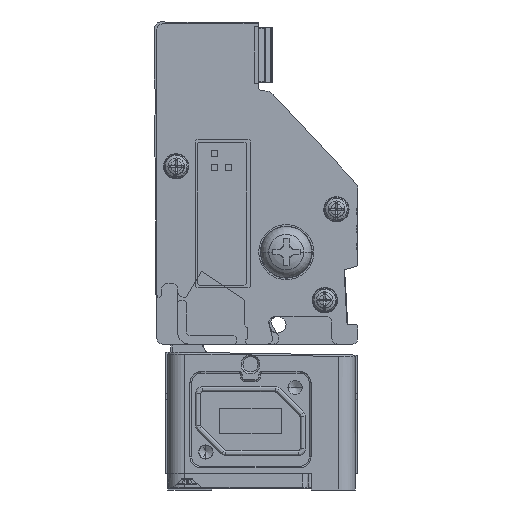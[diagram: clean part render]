
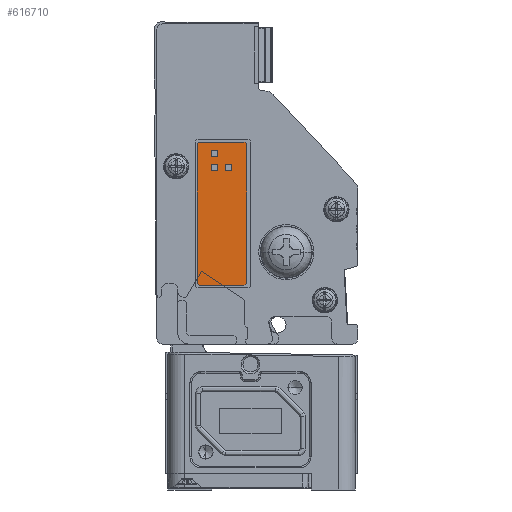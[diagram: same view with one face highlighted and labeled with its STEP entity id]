
A CAD part, front view. The second image highlights one B-rep face of the part: STEP entity #616710.
In plain terms, the highlighted planar face has unit normal (0, -1, 0).
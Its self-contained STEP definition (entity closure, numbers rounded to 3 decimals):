
#614940=CARTESIAN_POINT('',(9.8,-1339.8,
50.2));
#614950=DIRECTION('',(0.,-1.,0.));
#614960=DIRECTION('',(1.,0.,0.));
#614970=AXIS2_PLACEMENT_3D('',#614940,#614950,#614960);
#614980=PLANE('',#614970);
#614990=CARTESIAN_POINT('',(5.8,-1339.8,
62.7));
#615000=DIRECTION('',(0.,-1.,0.));
#615010=DIRECTION('',(0.,0.,1.));
#615020=AXIS2_PLACEMENT_3D('',#614990,#615000,#615010);
#615030=CIRCLE('',#615020,0.5);
#615040=CARTESIAN_POINT('',(5.8,-1339.8,
63.2));
#615050=VERTEX_POINT('',#615040);
#615060=CARTESIAN_POINT('',(5.3,-1339.8,
62.7));
#615070=VERTEX_POINT('',#615060);
#615080=EDGE_CURVE('',#615050,#615070,#615030,.T.);
#615090=ORIENTED_EDGE('',*,*,#615080,.T.);
#615100=CARTESIAN_POINT('',(5.8,-1339.8,
63.2));
#615110=DIRECTION('',(1.,0.,0.));
#615120=VECTOR('',#615110,1.);
#615130=LINE('',#615100,#615120);
#615140=CARTESIAN_POINT('',(13.8,-1339.8,
63.2));
#615150=VERTEX_POINT('',#615140);
#615160=EDGE_CURVE('',#615050,#615150,#615130,.T.);
#615170=ORIENTED_EDGE('',*,*,#615160,.F.);
#615180=CARTESIAN_POINT('',(13.8,-1339.8,
62.7));
#615190=DIRECTION('',(0.,-1.,0.));
#615200=DIRECTION('',(0.,0.,1.));
#615210=AXIS2_PLACEMENT_3D('',#615180,#615190,#615200);
#615220=CIRCLE('',#615210,0.5);
#615230=CARTESIAN_POINT('',(14.3,-1339.8,
62.7));
#615240=VERTEX_POINT('',#615230);
#615250=EDGE_CURVE('',#615240,#615150,#615220,.T.);
#615260=ORIENTED_EDGE('',*,*,#615250,.T.);
#615270=CARTESIAN_POINT('',(14.3,-1339.8,
62.7));
#615280=DIRECTION('',(0.,0.,-1.));
#615290=VECTOR('',#615280,1.);
#615300=LINE('',#615270,#615290);
#615310=CARTESIAN_POINT('',(14.3,-1339.8,
37.7));
#615320=VERTEX_POINT('',#615310);
#615330=EDGE_CURVE('',#615240,#615320,#615300,.T.);
#615340=ORIENTED_EDGE('',*,*,#615330,.F.);
#615350=CARTESIAN_POINT('',(13.8,-1339.8,
37.7));
#615360=DIRECTION('',(0.,-1.,0.));
#615370=DIRECTION('',(0.,0.,1.));
#615380=AXIS2_PLACEMENT_3D('',#615350,#615360,#615370);
#615390=CIRCLE('',#615380,0.5);
#615400=CARTESIAN_POINT('',(13.8,-1339.8,
37.2));
#615410=VERTEX_POINT('',#615400);
#615420=EDGE_CURVE('',#615410,#615320,#615390,.T.);
#615430=ORIENTED_EDGE('',*,*,#615420,.T.);
#615440=CARTESIAN_POINT('',(13.8,-1339.8,
37.2));
#615450=DIRECTION('',(-1.,0.,0.));
#615460=VECTOR('',#615450,1.);
#615470=LINE('',#615440,#615460);
#615480=CARTESIAN_POINT('',(5.8,-1339.8,
37.2));
#615490=VERTEX_POINT('',#615480);
#615500=EDGE_CURVE('',#615410,#615490,#615470,.T.);
#615510=ORIENTED_EDGE('',*,*,#615500,.F.);
#615520=CARTESIAN_POINT('',(5.8,-1339.8,
37.7));
#615530=DIRECTION('',(0.,-1.,0.));
#615540=DIRECTION('',(0.,0.,1.));
#615550=AXIS2_PLACEMENT_3D('',#615520,#615530,#615540);
#615560=CIRCLE('',#615550,0.5);
#615570=CARTESIAN_POINT('',(5.3,-1339.8,
37.7));
#615580=VERTEX_POINT('',#615570);
#615590=EDGE_CURVE('',#615580,#615490,#615560,.T.);
#615600=ORIENTED_EDGE('',*,*,#615590,.T.);
#615610=CARTESIAN_POINT('',(5.3,-1339.8,
37.7));
#615620=DIRECTION('',(0.,0.,1.));
#615630=VECTOR('',#615620,1.);
#615640=LINE('',#615610,#615630);
#615650=EDGE_CURVE('',#615580,#615070,#615640,.T.);
#615660=ORIENTED_EDGE('',*,*,#615650,.F.);
#615670=EDGE_LOOP('',(#615660,#615600,#615510,#615430,#615340,#615260,
#615170,#615090));
#615680=FACE_OUTER_BOUND('',#615670,.T.);
#615690=CARTESIAN_POINT('',(9.8,-1339.8,
58.089));
#615700=DIRECTION('',(-1.,0.,0.));
#615710=VECTOR('',#615700,1.);
#615720=LINE('',#615690,#615710);
#615730=CARTESIAN_POINT('',(11.605,-1339.8,
58.089));
#615740=VERTEX_POINT('',#615730);
#615750=CARTESIAN_POINT('',(10.506,-1339.8,
58.089));
#615760=VERTEX_POINT('',#615750);
#615770=EDGE_CURVE('',#615740,#615760,#615720,.T.);
#615780=ORIENTED_EDGE('',*,*,#615770,.T.);
#615790=CARTESIAN_POINT('',(11.605,-1339.8,
50.2));
#615800=DIRECTION('',(0.,0.,-1.));
#615810=VECTOR('',#615800,1.);
#615820=LINE('',#615790,#615810);
#615830=CARTESIAN_POINT('',(11.605,-1339.8,
59.188));
#615840=VERTEX_POINT('',#615830);
#615850=EDGE_CURVE('',#615840,#615740,#615820,.T.);
#615860=ORIENTED_EDGE('',*,*,#615850,.T.);
#615870=CARTESIAN_POINT('',(9.8,-1339.8,
59.188));
#615880=DIRECTION('',(1.,0.,0.));
#615890=VECTOR('',#615880,1.);
#615900=LINE('',#615870,#615890);
#615910=CARTESIAN_POINT('',(10.506,-1339.8,
59.188));
#615920=VERTEX_POINT('',#615910);
#615930=EDGE_CURVE('',#615920,#615840,#615900,.T.);
#615940=ORIENTED_EDGE('',*,*,#615930,.T.);
#615950=CARTESIAN_POINT('',(10.506,-1339.8,
50.2));
#615960=DIRECTION('',(0.,0.,1.));
#615970=VECTOR('',#615960,1.);
#615980=LINE('',#615950,#615970);
#615990=EDGE_CURVE('',#615760,#615920,#615980,.T.);
#616000=ORIENTED_EDGE('',*,*,#615990,.T.);
#616010=EDGE_LOOP('',(#616000,#615940,#615860,#615780));
#616020=FACE_BOUND('',#616010,.T.);
#616030=CARTESIAN_POINT('',(9.094,-1339.8,
50.2));
#616040=DIRECTION('',(0.,0.,-1.));
#616050=VECTOR('',#616040,1.);
#616060=LINE('',#616030,#616050);
#616070=CARTESIAN_POINT('',(9.094,-1339.8,
59.188));
#616080=VERTEX_POINT('',#616070);
#616090=CARTESIAN_POINT('',(9.094,-1339.8,
58.089));
#616100=VERTEX_POINT('',#616090);
#616110=EDGE_CURVE('',#616080,#616100,#616060,.T.);
#616120=ORIENTED_EDGE('',*,*,#616110,.T.);
#616130=CARTESIAN_POINT('',(9.8,-1339.8,
59.188));
#616140=DIRECTION('',(1.,0.,0.));
#616150=VECTOR('',#616140,1.);
#616160=LINE('',#616130,#616150);
#616170=CARTESIAN_POINT('',(7.995,-1339.8,
59.188));
#616180=VERTEX_POINT('',#616170);
#616190=EDGE_CURVE('',#616180,#616080,#616160,.T.);
#616200=ORIENTED_EDGE('',*,*,#616190,.T.);
#616210=CARTESIAN_POINT('',(7.995,-1339.8,
50.2));
#616220=DIRECTION('',(0.,0.,1.));
#616230=VECTOR('',#616220,1.);
#616240=LINE('',#616210,#616230);
#616250=CARTESIAN_POINT('',(7.995,-1339.8,
58.089));
#616260=VERTEX_POINT('',#616250);
#616270=EDGE_CURVE('',#616260,#616180,#616240,.T.);
#616280=ORIENTED_EDGE('',*,*,#616270,.T.);
#616290=CARTESIAN_POINT('',(9.8,-1339.8,
58.089));
#616300=DIRECTION('',(-1.,0.,0.));
#616310=VECTOR('',#616300,1.);
#616320=LINE('',#616290,#616310);
#616330=EDGE_CURVE('',#616100,#616260,#616320,.T.);
#616340=ORIENTED_EDGE('',*,*,#616330,.T.);
#616350=EDGE_LOOP('',(#616340,#616280,#616200,#616120));
#616360=FACE_BOUND('',#616350,.T.);
#616370=CARTESIAN_POINT('',(9.8,-1339.8,
61.7));
#616380=DIRECTION('',(1.,0.,0.));
#616390=VECTOR('',#616380,1.);
#616400=LINE('',#616370,#616390);
#616410=CARTESIAN_POINT('',(7.995,-1339.8,
61.7));
#616420=VERTEX_POINT('',#616410);
#616430=CARTESIAN_POINT('',(9.094,-1339.8,
61.7));
#616440=VERTEX_POINT('',#616430);
#616450=EDGE_CURVE('',#616420,#616440,#616400,.T.);
#616460=ORIENTED_EDGE('',*,*,#616450,.T.);
#616470=CARTESIAN_POINT('',(7.995,-1339.8,
50.2));
#616480=DIRECTION('',(0.,0.,1.));
#616490=VECTOR('',#616480,1.);
#616500=LINE('',#616470,#616490);
#616510=CARTESIAN_POINT('',(7.995,-1339.8,
60.601));
#616520=VERTEX_POINT('',#616510);
#616530=EDGE_CURVE('',#616520,#616420,#616500,.T.);
#616540=ORIENTED_EDGE('',*,*,#616530,.T.);
#616550=CARTESIAN_POINT('',(9.8,-1339.8,
60.601));
#616560=DIRECTION('',(-1.,0.,0.));
#616570=VECTOR('',#616560,1.);
#616580=LINE('',#616550,#616570);
#616590=CARTESIAN_POINT('',(9.094,-1339.8,
60.601));
#616600=VERTEX_POINT('',#616590);
#616610=EDGE_CURVE('',#616600,#616520,#616580,.T.);
#616620=ORIENTED_EDGE('',*,*,#616610,.T.);
#616630=CARTESIAN_POINT('',(9.094,-1339.8,
50.2));
#616640=DIRECTION('',(0.,0.,-1.));
#616650=VECTOR('',#616640,1.);
#616660=LINE('',#616630,#616650);
#616670=EDGE_CURVE('',#616440,#616600,#616660,.T.);
#616680=ORIENTED_EDGE('',*,*,#616670,.T.);
#616690=EDGE_LOOP('',(#616680,#616620,#616540,#616460));
#616700=FACE_BOUND('',#616690,.T.);
#616710=ADVANCED_FACE('',(#615680,#616020,#616360,#616700),#614980,.T.);
